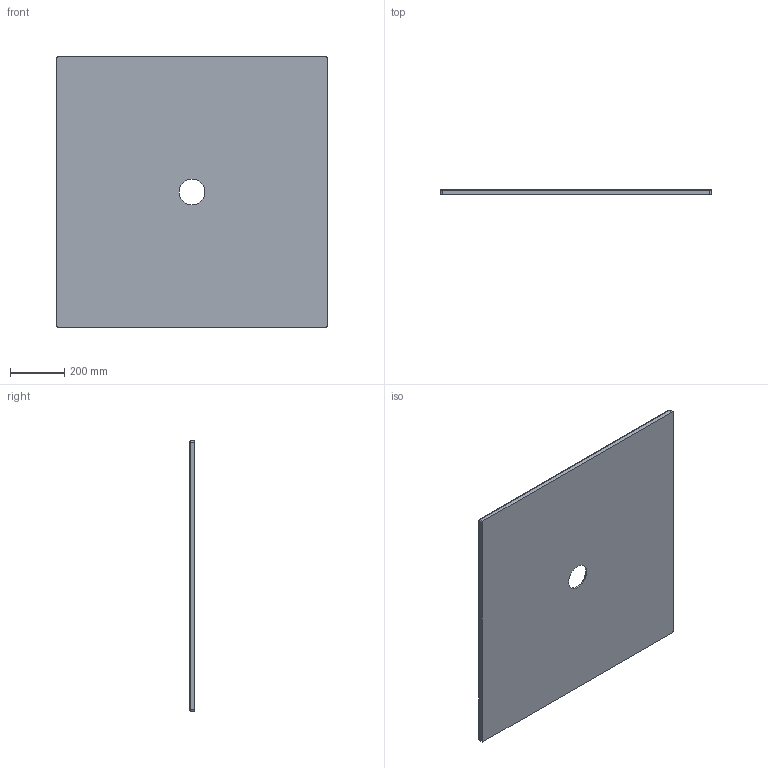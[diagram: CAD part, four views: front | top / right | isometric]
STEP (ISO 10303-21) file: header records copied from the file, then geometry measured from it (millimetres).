
FILE_DESCRIPTION (( 'STEP AP203' ), '1' );
FILE_NAME ('SDPD10010020.STEP', '2023-03-31T10:41:56', ( '' ), ( '' ), 'SwSTEP 2.0', 'SolidWorks 2023', '' );
FILE_SCHEMA (( 'CONFIG_CONTROL_DESIGN' ));
Length unit declared in the file: millimetre
Products named in the file (1): SDPD10010020
Bounding box: 1000 x 20 x 1000 mm (x, y, z)
Volume: 16579989.1 mm3; surface area: 2052870.1 mm2
Topology: 1 solids, 1 shells, 26 faces, 62 edges, 40 vertices
Faces by surface type: cylinder 9, plane 8, sphere 4, bspline 2, torus 2, cone 1
Full cylindrical faces by diameter (mm): 95 x1
Entity records: 2568 total; most frequent: CARTESIAN_POINT 1952, DIRECTION 108, ORIENTED_EDGE 104, EDGE_CURVE 52, AXIS2_PLACEMENT_3D 44, EDGE_LOOP 36, VERTEX_POINT 36, FACE_OUTER_BOUND 31
